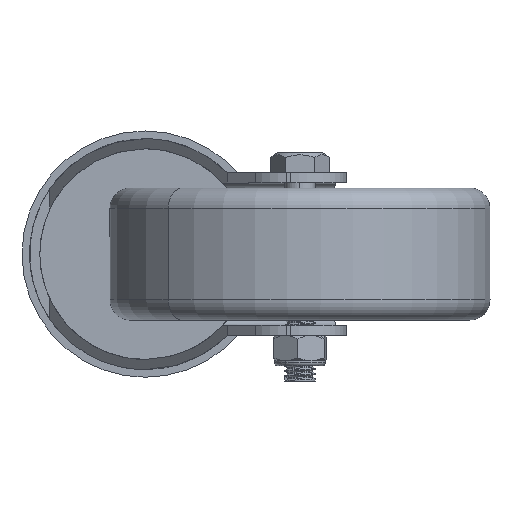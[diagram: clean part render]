
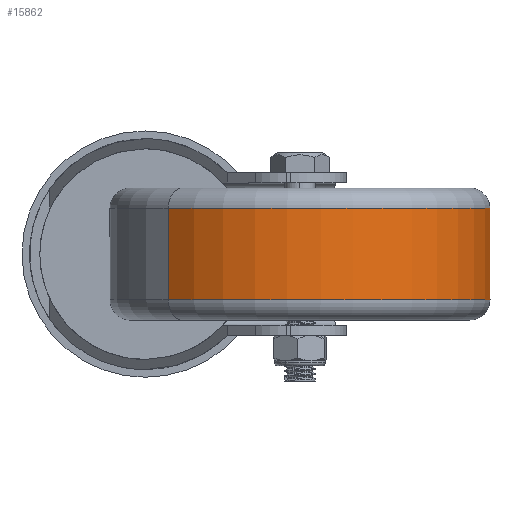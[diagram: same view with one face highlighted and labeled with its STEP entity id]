
A CAD part, front view. The second image highlights one B-rep face of the part: STEP entity #15862.
In plain terms, the highlighted cylindrical face has radius 37.5 mm (diameter 75 mm), a partial arc.
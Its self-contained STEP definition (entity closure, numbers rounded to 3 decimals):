
#140 = CARTESIAN_POINT ( 'NONE',  ( 0., 0., 0. ) ) ;
#269 = CARTESIAN_POINT ( 'NONE',  ( 0., 9., 0. ) ) ;
#532 = VERTEX_POINT ( 'NONE', #25674 ) ;
#5851 = VECTOR ( 'NONE', #6725, 1000. ) ;
#6403 = EDGE_CURVE ( 'NONE', #26016, #23148, #24735, .T. ) ;
#6584 = DIRECTION ( 'NONE',  ( 0., 0., -1. ) ) ;
#6725 = DIRECTION ( 'NONE',  ( 0., -1., 0. ) ) ;
#7003 = DIRECTION ( 'NONE',  ( 0., 1., 0. ) ) ;
#7430 = CARTESIAN_POINT ( 'NONE',  ( 0., 9., -37.5 ) ) ;
#8755 = DIRECTION ( 'NONE',  ( 0., 0., -1. ) ) ;
#9037 = DIRECTION ( 'NONE',  ( 0., -1., 0. ) ) ;
#10937 = LINE ( 'NONE', #19635, #5851 ) ;
#11491 = ORIENTED_EDGE ( 'NONE', *, *, #17666, .F. ) ;
#11921 = CARTESIAN_POINT ( 'NONE',  ( 0., 0., -37.5 ) ) ;
#12712 = DIRECTION ( 'NONE',  ( 0., -1., 0. ) ) ;
#13192 = CARTESIAN_POINT ( 'NONE',  ( 0., -9., 37.5 ) ) ;
#15625 = VECTOR ( 'NONE', #18763, 1000. ) ;
#15647 = ORIENTED_EDGE ( 'NONE', *, *, #18179, .T. ) ;
#15862 = ADVANCED_FACE ( 'NONE', ( #19690 ), #23527, .T. ) ;
#16950 = EDGE_CURVE ( 'NONE', #23148, #24870, #17124, .T. ) ;
#17124 = CIRCLE ( 'NONE', #19859, 37.5 ) ;
#17538 = DIRECTION ( 'NONE',  ( 0., 0., 1. ) ) ;
#17666 = EDGE_CURVE ( 'NONE', #532, #24870, #10937, .T. ) ;
#18020 = EDGE_LOOP ( 'NONE', ( #11491, #15647, #27403, #18441 ) ) ;
#18179 = EDGE_CURVE ( 'NONE', #532, #26016, #22622, .T. ) ;
#18441 = ORIENTED_EDGE ( 'NONE', *, *, #16950, .T. ) ;
#18547 = AXIS2_PLACEMENT_3D ( 'NONE', #269, #9037, #17538 ) ;
#18763 = DIRECTION ( 'NONE',  ( 0., -1., 0. ) ) ;
#19635 = CARTESIAN_POINT ( 'NONE',  ( 0., 0., 37.5 ) ) ;
#19690 = FACE_OUTER_BOUND ( 'NONE', #18020, .T. ) ;
#19859 = AXIS2_PLACEMENT_3D ( 'NONE', #26018, #7003, #6584 ) ;
#22622 = CIRCLE ( 'NONE', #18547, 37.5 ) ;
#23148 = VERTEX_POINT ( 'NONE', #26293 ) ;
#23527 = CYLINDRICAL_SURFACE ( 'NONE', #25270, 37.5 ) ;
#24735 = LINE ( 'NONE', #11921, #15625 ) ;
#24870 = VERTEX_POINT ( 'NONE', #13192 ) ;
#25270 = AXIS2_PLACEMENT_3D ( 'NONE', #140, #12712, #8755 ) ;
#25674 = CARTESIAN_POINT ( 'NONE',  ( 0., 9., 37.5 ) ) ;
#26016 = VERTEX_POINT ( 'NONE', #7430 ) ;
#26018 = CARTESIAN_POINT ( 'NONE',  ( 0., -9., 0. ) ) ;
#26293 = CARTESIAN_POINT ( 'NONE',  ( 0., -9., -37.5 ) ) ;
#27403 = ORIENTED_EDGE ( 'NONE', *, *, #6403, .T. ) ;
